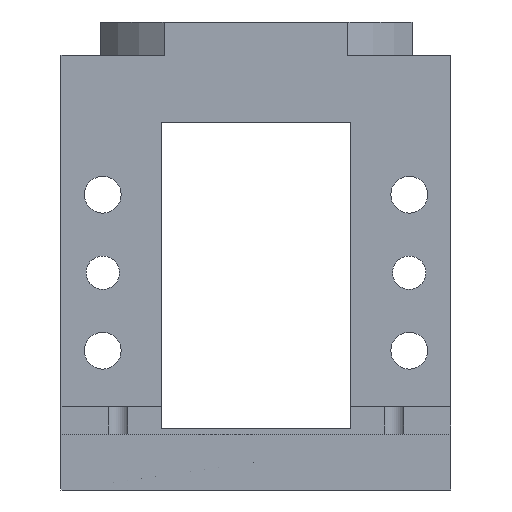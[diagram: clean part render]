
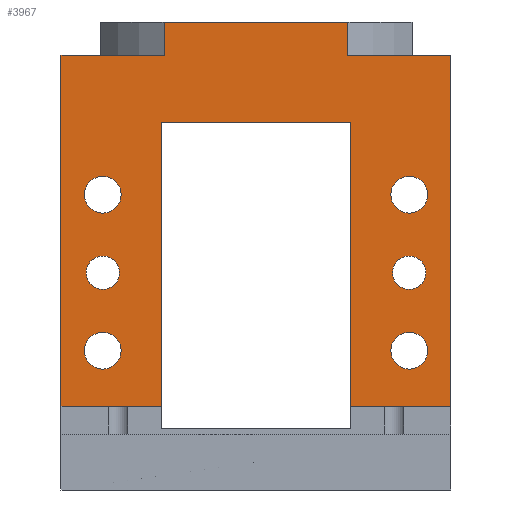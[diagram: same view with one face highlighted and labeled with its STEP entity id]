
A CAD part, front view. The second image highlights one B-rep face of the part: STEP entity #3967.
In plain terms, the highlighted planar face has unit normal (0, -1, 0).
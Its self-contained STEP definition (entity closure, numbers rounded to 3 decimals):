
#91=CARTESIAN_POINT('',(-27.5,-28.,33.5));
#92=DIRECTION('',(0.,1.,0.));
#93=DIRECTION('',(0.,0.,-1.));
#94=AXIS2_PLACEMENT_3D('',#91,#92,#93);
#96=CARTESIAN_POINT('',(-27.5,-28.,33.5));
#97=DIRECTION('',(0.,1.,0.));
#98=DIRECTION('',(0.,0.,1.));
#99=AXIS2_PLACEMENT_3D('',#96,#97,#98);
#101=CARTESIAN_POINT('',(27.5,-28.,33.5));
#102=DIRECTION('',(0.,1.,0.));
#103=DIRECTION('',(0.,0.,-1.));
#104=AXIS2_PLACEMENT_3D('',#101,#102,#103);
#106=CARTESIAN_POINT('',(27.5,-28.,33.5));
#107=DIRECTION('',(0.,1.,0.));
#108=DIRECTION('',(0.,0.,1.));
#109=AXIS2_PLACEMENT_3D('',#106,#107,#108);
#111=CARTESIAN_POINT('',(27.5,-28.,19.5));
#112=DIRECTION('',(0.,1.,0.));
#113=DIRECTION('',(-1.,0.,0.));
#114=AXIS2_PLACEMENT_3D('',#111,#112,#113);
#116=CARTESIAN_POINT('',(27.5,-28.,19.5));
#117=DIRECTION('',(0.,1.,0.));
#118=DIRECTION('',(0.,0.,-1.));
#119=AXIS2_PLACEMENT_3D('',#116,#117,#118);
#121=CARTESIAN_POINT('',(27.5,-28.,19.5));
#122=DIRECTION('',(0.,1.,0.));
#123=DIRECTION('',(0.,0.,1.));
#124=AXIS2_PLACEMENT_3D('',#121,#122,#123);
#126=CARTESIAN_POINT('',(27.5,-28.,47.5));
#127=DIRECTION('',(0.,1.,0.));
#128=DIRECTION('',(-1.,0.,0.));
#129=AXIS2_PLACEMENT_3D('',#126,#127,#128);
#131=CARTESIAN_POINT('',(27.5,-28.,47.5));
#132=DIRECTION('',(0.,1.,0.));
#133=DIRECTION('',(0.,0.,-1.));
#134=AXIS2_PLACEMENT_3D('',#131,#132,#133);
#136=CARTESIAN_POINT('',(27.5,-28.,47.5));
#137=DIRECTION('',(0.,1.,0.));
#138=DIRECTION('',(0.,0.,1.));
#139=AXIS2_PLACEMENT_3D('',#136,#137,#138);
#141=CARTESIAN_POINT('',(-27.5,-28.,19.5));
#142=DIRECTION('',(0.,1.,0.));
#143=DIRECTION('',(-1.,0.,0.));
#144=AXIS2_PLACEMENT_3D('',#141,#142,#143);
#146=CARTESIAN_POINT('',(-27.5,-28.,19.5));
#147=DIRECTION('',(0.,1.,0.));
#148=DIRECTION('',(0.,0.,-1.));
#149=AXIS2_PLACEMENT_3D('',#146,#147,#148);
#151=CARTESIAN_POINT('',(-27.5,-28.,19.5));
#152=DIRECTION('',(0.,1.,0.));
#153=DIRECTION('',(0.,0.,1.));
#154=AXIS2_PLACEMENT_3D('',#151,#152,#153);
#156=CARTESIAN_POINT('',(-27.5,-28.,47.5));
#157=DIRECTION('',(0.,1.,0.));
#158=DIRECTION('',(-1.,0.,0.));
#159=AXIS2_PLACEMENT_3D('',#156,#157,#158);
#161=CARTESIAN_POINT('',(-27.5,-28.,47.5));
#162=DIRECTION('',(0.,1.,0.));
#163=DIRECTION('',(0.,0.,-1.));
#164=AXIS2_PLACEMENT_3D('',#161,#162,#163);
#166=CARTESIAN_POINT('',(-27.5,-28.,47.5));
#167=DIRECTION('',(0.,1.,0.));
#168=DIRECTION('',(0.,0.,1.));
#169=AXIS2_PLACEMENT_3D('',#166,#167,#168);
#171=DIRECTION('',(-1.,0.,0.));
#172=VECTOR('',#171,33.);
#173=CARTESIAN_POINT('',(16.5,-28.,78.5));
#174=LINE('',#173,#172);
#175=DIRECTION('',(1.,0.,0.));
#176=VECTOR('',#175,34.);
#177=CARTESIAN_POINT('',(-17.,-28.,60.5));
#178=LINE('',#177,#176);
#179=DIRECTION('',(0.,0.,1.));
#180=VECTOR('',#179,51.);
#181=CARTESIAN_POINT('',(-17.,-28.,9.5));
#182=LINE('',#181,#180);
#747=DIRECTION('',(1.,0.,0.));
#748=VECTOR('',#747,18.5);
#749=CARTESIAN_POINT('',(16.5,-28.,72.5));
#750=LINE('',#749,#748);
#765=DIRECTION('',(0.,0.,-1.));
#766=VECTOR('',#765,63.);
#767=CARTESIAN_POINT('',(35.,-28.,72.5));
#768=LINE('',#767,#766);
#777=DIRECTION('',(-1.,0.,0.));
#778=VECTOR('',#777,18.);
#779=CARTESIAN_POINT('',(35.,-28.,9.5));
#780=LINE('',#779,#778);
#2689=DIRECTION('',(0.,0.,1.));
#2690=VECTOR('',#2689,51.);
#2691=CARTESIAN_POINT('',(17.,-28.,9.5));
#2692=LINE('',#2691,#2690);
#2705=DIRECTION('',(-1.,0.,0.));
#2706=VECTOR('',#2705,18.);
#2707=CARTESIAN_POINT('',(-17.,-28.,9.5));
#2708=LINE('',#2707,#2706);
#2750=DIRECTION('',(0.,0.,1.));
#2751=VECTOR('',#2750,63.);
#2752=CARTESIAN_POINT('',(-35.,-28.,9.5));
#2753=LINE('',#2752,#2751);
#2767=DIRECTION('',(1.,0.,0.));
#2768=VECTOR('',#2767,18.5);
#2769=CARTESIAN_POINT('',(-35.,-28.,72.5));
#2770=LINE('',#2769,#2768);
#2788=DIRECTION('',(0.,0.,1.));
#2789=VECTOR('',#2788,6.);
#2790=CARTESIAN_POINT('',(-16.5,-28.,72.5));
#2791=LINE('',#2790,#2789);
#2889=DIRECTION('',(0.,0.,-1.));
#2890=VECTOR('',#2889,6.);
#2891=CARTESIAN_POINT('',(16.5,-28.,78.5));
#2892=LINE('',#2891,#2890);
#3018=CARTESIAN_POINT('',(16.5,-28.,72.5));
#3019=VERTEX_POINT('',#3018);
#3020=CARTESIAN_POINT('',(35.,-28.,72.5));
#3021=VERTEX_POINT('',#3020);
#3030=CARTESIAN_POINT('',(17.,-28.,60.5));
#3031=VERTEX_POINT('',#3030);
#3032=CARTESIAN_POINT('',(-17.,-28.,60.5));
#3033=VERTEX_POINT('',#3032);
#3058=CARTESIAN_POINT('',(-16.5,-28.,78.5));
#3059=VERTEX_POINT('',#3058);
#3060=CARTESIAN_POINT('',(16.5,-28.,78.5));
#3061=VERTEX_POINT('',#3060);
#3062=CARTESIAN_POINT('',(-16.5,-28.,72.5));
#3063=VERTEX_POINT('',#3062);
#3064=CARTESIAN_POINT('',(-35.,-28.,72.5));
#3065=VERTEX_POINT('',#3064);
#3066=CARTESIAN_POINT('',(-35.,-28.,9.5));
#3067=VERTEX_POINT('',#3066);
#3068=CARTESIAN_POINT('',(-17.,-28.,9.5));
#3069=VERTEX_POINT('',#3068);
#3070=CARTESIAN_POINT('',(17.,-28.,9.5));
#3071=VERTEX_POINT('',#3070);
#3072=CARTESIAN_POINT('',(35.,-28.,9.5));
#3073=VERTEX_POINT('',#3072);
#3466=CARTESIAN_POINT('',(-27.5,-28.,30.5));
#3468=VERTEX_POINT('',#3466);
#3470=CARTESIAN_POINT('',(-27.5,-28.,36.5));
#3472=VERTEX_POINT('',#3470);
#3474=CARTESIAN_POINT('',(27.5,-28.,30.5));
#3476=VERTEX_POINT('',#3474);
#3478=CARTESIAN_POINT('',(27.5,-28.,36.5));
#3480=VERTEX_POINT('',#3478);
#3607=CARTESIAN_POINT('',(27.5,-28.,44.2));
#3609=VERTEX_POINT('',#3607);
#3611=CARTESIAN_POINT('',(27.5,-28.,50.8));
#3613=VERTEX_POINT('',#3611);
#3615=CARTESIAN_POINT('',(24.2,-28.,47.5));
#3616=VERTEX_POINT('',#3615);
#3625=CARTESIAN_POINT('',(27.5,-28.,16.2));
#3627=VERTEX_POINT('',#3625);
#3629=CARTESIAN_POINT('',(27.5,-28.,22.8));
#3631=VERTEX_POINT('',#3629);
#3633=CARTESIAN_POINT('',(24.2,-28.,19.5));
#3634=VERTEX_POINT('',#3633);
#3643=CARTESIAN_POINT('',(-27.5,-28.,16.2));
#3645=VERTEX_POINT('',#3643);
#3647=CARTESIAN_POINT('',(-27.5,-28.,22.8));
#3649=VERTEX_POINT('',#3647);
#3651=CARTESIAN_POINT('',(-30.8,-28.,19.5));
#3652=VERTEX_POINT('',#3651);
#3661=CARTESIAN_POINT('',(-27.5,-28.,44.2));
#3663=VERTEX_POINT('',#3661);
#3665=CARTESIAN_POINT('',(-27.5,-28.,50.8));
#3667=VERTEX_POINT('',#3665);
#3669=CARTESIAN_POINT('',(-30.8,-28.,47.5));
#3670=VERTEX_POINT('',#3669);
#3895=CARTESIAN_POINT('',(-35.,-28.,143.544));
#3896=DIRECTION('',(0.,1.,0.));
#3897=DIRECTION('',(1.,0.,0.));
#3898=AXIS2_PLACEMENT_3D('',#3895,#3896,#3897);
#3899=PLANE('',#3898);
#3901=ORIENTED_EDGE('',*,*,#3900,.T.);
#3903=ORIENTED_EDGE('',*,*,#3902,.F.);
#3905=ORIENTED_EDGE('',*,*,#3904,.T.);
#3907=ORIENTED_EDGE('',*,*,#3906,.T.);
#3909=ORIENTED_EDGE('',*,*,#3908,.T.);
#3911=ORIENTED_EDGE('',*,*,#3910,.T.);
#3913=ORIENTED_EDGE('',*,*,#3912,.T.);
#3915=ORIENTED_EDGE('',*,*,#3914,.F.);
#3917=ORIENTED_EDGE('',*,*,#3916,.F.);
#3919=ORIENTED_EDGE('',*,*,#3918,.T.);
#3921=ORIENTED_EDGE('',*,*,#3920,.T.);
#3923=ORIENTED_EDGE('',*,*,#3922,.T.);
#3924=EDGE_LOOP('',(#3901,#3903,#3905,#3907,#3909,#3911,#3913,#3915,#3917,#3919,
#3921,#3923));
#3925=FACE_OUTER_BOUND('',#3924,.F.);
#3927=ORIENTED_EDGE('',*,*,#3926,.F.);
#3929=ORIENTED_EDGE('',*,*,#3928,.F.);
#3930=EDGE_LOOP('',(#3927,#3929));
#3931=FACE_BOUND('',#3930,.F.);
#3933=ORIENTED_EDGE('',*,*,#3932,.F.);
#3935=ORIENTED_EDGE('',*,*,#3934,.F.);
#3937=ORIENTED_EDGE('',*,*,#3936,.F.);
#3938=EDGE_LOOP('',(#3933,#3935,#3937));
#3939=FACE_BOUND('',#3938,.F.);
#3940=ORIENTED_EDGE('',*,*,#3875,.F.);
#3941=ORIENTED_EDGE('',*,*,#3873,.F.);
#3942=ORIENTED_EDGE('',*,*,#3889,.F.);
#3943=EDGE_LOOP('',(#3940,#3941,#3942));
#3944=FACE_BOUND('',#3943,.F.);
#3946=ORIENTED_EDGE('',*,*,#3945,.F.);
#3948=ORIENTED_EDGE('',*,*,#3947,.F.);
#3950=ORIENTED_EDGE('',*,*,#3949,.F.);
#3951=EDGE_LOOP('',(#3946,#3948,#3950));
#3952=FACE_BOUND('',#3951,.F.);
#3954=ORIENTED_EDGE('',*,*,#3953,.F.);
#3956=ORIENTED_EDGE('',*,*,#3955,.F.);
#3958=ORIENTED_EDGE('',*,*,#3957,.F.);
#3959=EDGE_LOOP('',(#3954,#3956,#3958));
#3960=FACE_BOUND('',#3959,.F.);
#3962=ORIENTED_EDGE('',*,*,#3961,.F.);
#3964=ORIENTED_EDGE('',*,*,#3963,.F.);
#3965=EDGE_LOOP('',(#3962,#3964));
#3966=FACE_BOUND('',#3965,.F.);
#95=CIRCLE('',#94,3.);
#100=CIRCLE('',#99,3.);
#105=CIRCLE('',#104,3.);
#110=CIRCLE('',#109,3.);
#115=CIRCLE('',#114,3.3);
#120=CIRCLE('',#119,3.3);
#125=CIRCLE('',#124,3.3);
#130=CIRCLE('',#129,3.3);
#135=CIRCLE('',#134,3.3);
#140=CIRCLE('',#139,3.3);
#145=CIRCLE('',#144,3.3);
#150=CIRCLE('',#149,3.3);
#155=CIRCLE('',#154,3.3);
#160=CIRCLE('',#159,3.3);
#165=CIRCLE('',#164,3.3);
#170=CIRCLE('',#169,3.3);
#3873=EDGE_CURVE('',#3609,#3616,#135,.T.);
#3875=EDGE_CURVE('',#3616,#3613,#130,.T.);
#3889=EDGE_CURVE('',#3613,#3609,#140,.T.);
#3900=EDGE_CURVE('',#3063,#3059,#2791,.T.);
#3902=EDGE_CURVE('',#3061,#3059,#174,.T.);
#3904=EDGE_CURVE('',#3061,#3019,#2892,.T.);
#3906=EDGE_CURVE('',#3019,#3021,#750,.T.);
#3908=EDGE_CURVE('',#3021,#3073,#768,.T.);
#3910=EDGE_CURVE('',#3073,#3071,#780,.T.);
#3912=EDGE_CURVE('',#3071,#3031,#2692,.T.);
#3914=EDGE_CURVE('',#3033,#3031,#178,.T.);
#3916=EDGE_CURVE('',#3069,#3033,#182,.T.);
#3918=EDGE_CURVE('',#3069,#3067,#2708,.T.);
#3920=EDGE_CURVE('',#3067,#3065,#2753,.T.);
#3922=EDGE_CURVE('',#3065,#3063,#2770,.T.);
#3926=EDGE_CURVE('',#3476,#3480,#105,.T.);
#3928=EDGE_CURVE('',#3480,#3476,#110,.T.);
#3932=EDGE_CURVE('',#3634,#3631,#115,.T.);
#3934=EDGE_CURVE('',#3627,#3634,#120,.T.);
#3936=EDGE_CURVE('',#3631,#3627,#125,.T.);
#3945=EDGE_CURVE('',#3652,#3649,#145,.T.);
#3947=EDGE_CURVE('',#3645,#3652,#150,.T.);
#3949=EDGE_CURVE('',#3649,#3645,#155,.T.);
#3953=EDGE_CURVE('',#3670,#3667,#160,.T.);
#3955=EDGE_CURVE('',#3663,#3670,#165,.T.);
#3957=EDGE_CURVE('',#3667,#3663,#170,.T.);
#3961=EDGE_CURVE('',#3468,#3472,#95,.T.);
#3963=EDGE_CURVE('',#3472,#3468,#100,.T.);
#3967=ADVANCED_FACE('',(#3925,#3931,#3939,#3944,#3952,#3960,#3966),#3899,.F.);
